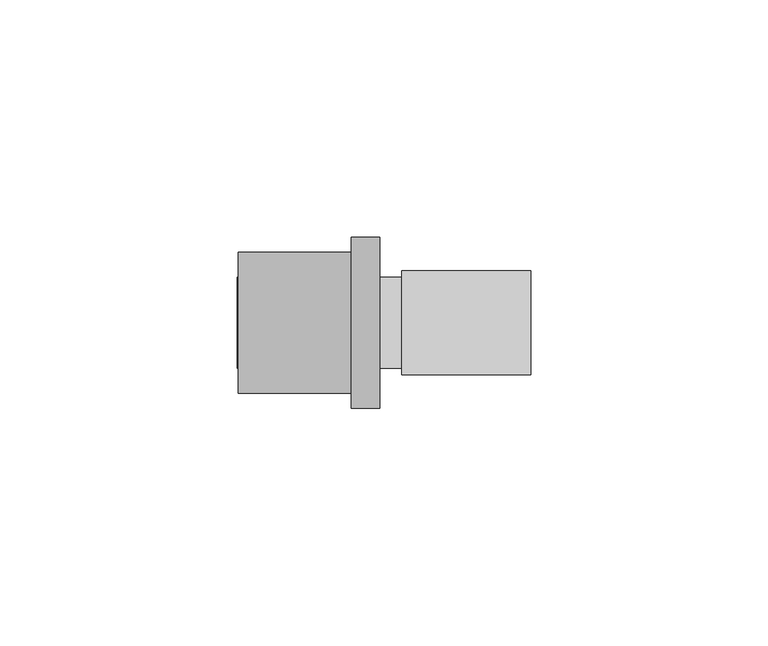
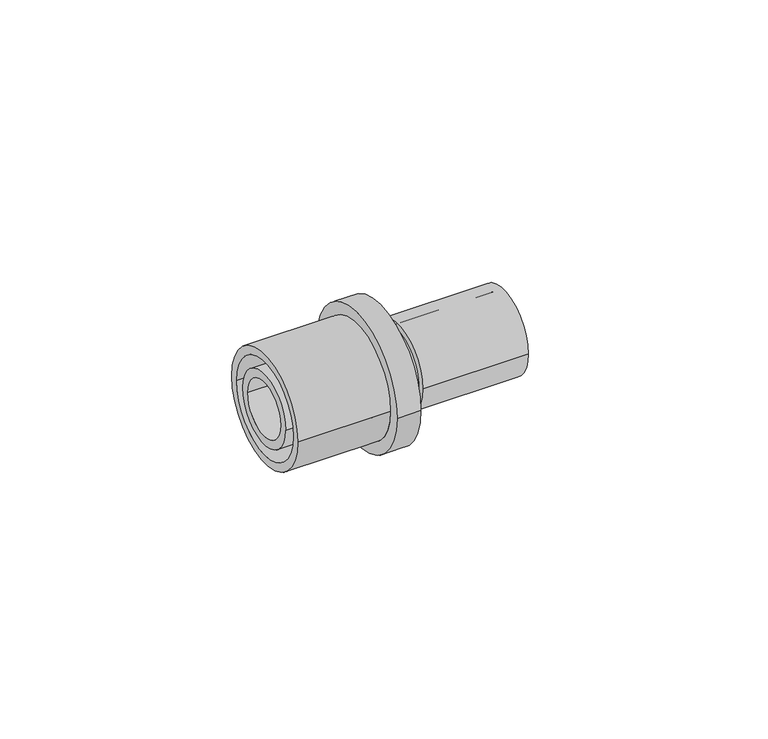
"""IFC4 building model written with IfcOpenShell, lengths in millimetres: pipe fitting geometry, FASTLOC Copper press adapter RX+ : FSL RX+ AT."""

from ifc_helpers import new_model, si_unit, point, frame, origin, origin_2d, place, context, project, spatial, polyline, circle_curve, trimmed, segment, composite_curve, outline, extrude, source, transform, mapped, element, save
from ifc_brep_helpers import plane_surface, cylinder_surface, revolved_surface, advanced_brep


def pipe_fitting_127ecf93(model_context):
    return source(origin(), model_context, "Body", "SolidModel", [
        advanced_brep(
        [(-10.6, -18.0, 0.0), (-10.6, 18.0, 0.0), (-4.6, 18.0, 0.0), (-4.6, -18.0, 0.0), (-34.4, -14.85, 0.0), (-34.4, 14.85, 0.0), (-10.6, 14.85, 0.0), (-10.6, -14.85, 0.0), (-4.6, -12.65, 0.0), (-4.6, 12.65, 0.0), (-34.4, 12.65, 0.0), (-34.4, -12.65, 0.0)],
        [
            (0, 1, circle_curve(frame((-10.6, 0.0, 0.0), z_axis=(1.0, 0.0, 0.0), x_axis=(0.0, 1.0, 0.0)), 18.0)),
            (1, 2),
            (2, 3, circle_curve(frame((-4.6, 0.0, 0.0), z_axis=(-1.0, 0.0, 0.0), x_axis=(0.0, 1.0, 0.0)), 18.0)),
            (3, 0),
            (4, 5, circle_curve(frame((-34.4, 0.0, 0.0), z_axis=(1.0, 0.0, 0.0), x_axis=(0.0, 1.0, 0.0)), 14.85)),
            (5, 6),
            (6, 7, circle_curve(frame((-10.6, 0.0, 0.0), z_axis=(-1.0, 0.0, 0.0), x_axis=(0.0, 1.0, 0.0)), 14.85)),
            (7, 4),
            (8, 9, circle_curve(frame((-4.6, 0.0, 0.0), z_axis=(1.0, 0.0, 0.0), x_axis=(0.0, 1.0, 0.0)), 12.65)),
            (9, 10),
            (10, 11, circle_curve(frame((-34.4, 0.0, 0.0), z_axis=(-1.0, 0.0, 0.0), x_axis=(0.0, 1.0, 0.0)), 12.65)),
            (11, 8),
            (1, 0, circle_curve(frame((-10.6, 0.0, 0.0), z_axis=(1.0, 0.0, 0.0), x_axis=(0.0, -1.0, 0.0)), 18.0)),
            (3, 2, circle_curve(frame((-4.6, 0.0, 0.0), z_axis=(-1.0, 0.0, 0.0), x_axis=(0.0, -1.0, 0.0)), 18.0)),
            (6, 7, circle_curve(frame((-10.6, 0.0, 0.0), z_axis=(1.0, 0.0, 0.0), x_axis=(0.0, -1.0, 0.0)), 14.85)),
            (5, 4, circle_curve(frame((-34.4, 0.0, 0.0), z_axis=(1.0, 0.0, 0.0), x_axis=(0.0, -1.0, 0.0)), 14.85)),
            (10, 11, circle_curve(frame((-34.4, 0.0, 0.0), z_axis=(1.0, 0.0, 0.0), x_axis=(0.0, -1.0, 0.0)), 12.65)),
            (9, 8, circle_curve(frame((-4.6, 0.0, 0.0), z_axis=(1.0, 0.0, 0.0), x_axis=(0.0, -1.0, 0.0)), 12.65)),
        ],
        [
            cylinder_surface(frame((-4.6, 0.0, 0.0), z_axis=(-1.0, 0.0, 0.0), x_axis=(0.0, 1.0, 0.0)), 18.0),
            cylinder_surface(frame((-4.6, 0.0, 0.0), z_axis=(-1.0, 0.0, 0.0), x_axis=(0.0, 1.0, 0.0)), 14.85),
            revolved_surface(polyline([(-34.4, 12.65, 0.0), (-4.6, 12.65, 0.0)]), (-4.6, 0.0, 0.0), (-1.0, 0.0, 0.0)),
            cylinder_surface(frame((-4.6, 0.0, 0.0), z_axis=(-1.0, 0.0, 0.0), x_axis=(0.0, -1.0, 0.0)), 18.0),
            plane_surface(frame((-10.6, 0.0, 0.0), z_axis=(-1.0, 0.0, 0.0), x_axis=(0.0, -1.0, 0.0))),
            cylinder_surface(frame((-4.6, 0.0, 0.0), z_axis=(-1.0, 0.0, 0.0), x_axis=(0.0, -1.0, 0.0)), 14.85),
            plane_surface(frame((-34.4, 0.0, 0.0), z_axis=(-1.0, 0.0, 0.0), x_axis=(0.0, -1.0, 0.0))),
            revolved_surface(polyline([(-34.4, -12.65, 0.0), (-4.6, -12.65, 0.0)]), (-4.6, 0.0, 0.0), (-1.0, 0.0, 0.0)),
            plane_surface(frame((-4.6, 0.0, 0.0), z_axis=(1.0, 0.0, 0.0), x_axis=(0.0, -1.0, 0.0))),
        ],
        [
            (0, [[1, 2, 3, 4]]),
            (1, [[5, 6, 7, 8]]),
            (2, [[9, 10, 11, 12]]),
            (3, [[13, -4, 14, -2]]),
            (4, [[-13, -1], [15, -7]]),
            (5, [[16, -8, -15, -6]]),
            (6, [[-16, -5], [17, -11]]),
            (7, [[18, -12, -17, -10]]),
            (8, [[-14, -3], [-18, -9]]),
        ],
    ),
        extrude(outline(composite_curve([segment(trimmed(circle_curve(origin_2d(), 11.0), [point((-11.0, 0.0))], [point((11.0, 0.0))], False, "CARTESIAN"), True, "CONTINUOUS"), segment(trimmed(circle_curve(origin_2d(), 11.0), [point((11.0, 0.0))], [point((-11.0, 0.0))], False, "CARTESIAN"), True, "CONTINUOUS")], self_intersect=False), holes=[composite_curve([segment(trimmed(circle_curve(origin_2d(), 8.75), [point((-8.75, 0.0))], [point((8.75, 0.0))], True, "CARTESIAN"), True, "CONTINUOUS"), segment(trimmed(circle_curve(origin_2d(), 8.75), [point((8.75, 0.0))], [point((-8.75, 0.0))], True, "CARTESIAN"), True, "CONTINUOUS")], self_intersect=False)]), frame((0.0, 0.0, 0.0), z_axis=(1.0, 0.0, 0.0), x_axis=(0.0, 1.0, 0.0)), (0.0, 0.0, 1.0), 27.2),
        advanced_brep(
        [(-10.6, 9.6, 0.0), (-10.6, -9.6, 0.0), (-34.6, -9.6, 0.0), (-34.6, 9.6, 0.0), (-7.8, 11.1, 0.0), (-7.8, -11.1, 0.0), (-10.6, -11.1, 0.0), (-10.6, 11.1, 0.0), (0.0, 9.6, 0.0), (0.0, -9.6, 0.0), (-7.8, -9.6, 0.0), (-7.8, 9.6, 0.0), (-34.6, 7.35, 0.0), (-34.6, -7.35, 0.0), (0.0, -7.35, 0.0), (0.0, 7.35, 0.0)],
        [
            (0, 1, circle_curve(frame((-10.6, 0.0, 0.0), z_axis=(-1.0, 0.0, 0.0), x_axis=(0.0, -1.0, 0.0)), 9.6)),
            (1, 2),
            (2, 3, circle_curve(frame((-34.6, 0.0, 0.0), z_axis=(1.0, 0.0, 0.0), x_axis=(0.0, -1.0, 0.0)), 9.6)),
            (3, 0),
            (4, 5, circle_curve(frame((-7.8, 0.0, 0.0), z_axis=(-1.0, 0.0, 0.0), x_axis=(0.0, -1.0, 0.0)), 11.1)),
            (5, 6),
            (6, 7, circle_curve(frame((-10.6, 0.0, 0.0), z_axis=(1.0, 0.0, 0.0), x_axis=(0.0, -1.0, 0.0)), 11.1)),
            (7, 4),
            (8, 9, circle_curve(frame((0.0, 0.0, 0.0), z_axis=(-1.0, 0.0, 0.0), x_axis=(0.0, -1.0, 0.0)), 9.6)),
            (9, 10),
            (10, 11, circle_curve(frame((-7.8, 0.0, 0.0), z_axis=(1.0, 0.0, 0.0), x_axis=(0.0, -1.0, 0.0)), 9.6)),
            (11, 8),
            (12, 13, circle_curve(frame((-34.6, 0.0, 0.0), z_axis=(-1.0, 0.0, 0.0), x_axis=(0.0, -1.0, 0.0)), 7.35)),
            (13, 14),
            (14, 15, circle_curve(frame((0.0, 0.0, 0.0), z_axis=(1.0, 0.0, 0.0), x_axis=(0.0, -1.0, 0.0)), 7.35)),
            (15, 12),
            (2, 3, circle_curve(frame((-34.6, 0.0, 0.0), z_axis=(-1.0, 0.0, 0.0), x_axis=(0.0, 1.0, 0.0)), 9.6)),
            (12, 13, circle_curve(frame((-34.6, 0.0, 0.0), z_axis=(1.0, 0.0, 0.0), x_axis=(0.0, 1.0, 0.0)), 7.35)),
            (1, 0, circle_curve(frame((-10.6, 0.0, 0.0), z_axis=(-1.0, 0.0, 0.0), x_axis=(0.0, 1.0, 0.0)), 9.6)),
            (6, 7, circle_curve(frame((-10.6, 0.0, 0.0), z_axis=(-1.0, 0.0, 0.0), x_axis=(0.0, 1.0, 0.0)), 11.1)),
            (5, 4, circle_curve(frame((-7.8, 0.0, 0.0), z_axis=(-1.0, 0.0, 0.0), x_axis=(0.0, 1.0, 0.0)), 11.1)),
            (10, 11, circle_curve(frame((-7.8, 0.0, 0.0), z_axis=(-1.0, 0.0, 0.0), x_axis=(0.0, 1.0, 0.0)), 9.6)),
            (9, 8, circle_curve(frame((0.0, 0.0, 0.0), z_axis=(-1.0, 0.0, 0.0), x_axis=(0.0, 1.0, 0.0)), 9.6)),
            (14, 15, circle_curve(frame((0.0, 0.0, 0.0), z_axis=(-1.0, 0.0, 0.0), x_axis=(0.0, 1.0, 0.0)), 7.35)),
        ],
        [
            cylinder_surface(frame((0.0, 0.0, 0.0), z_axis=(1.0, 0.0, 0.0), x_axis=(0.0, -1.0, 0.0)), 9.6),
            cylinder_surface(frame((0.0, 0.0, 0.0), z_axis=(1.0, 0.0, 0.0), x_axis=(0.0, -1.0, 0.0)), 11.1),
            revolved_surface(polyline([(0.0, -7.35, 0.0), (-34.6, -7.35, 0.0)]), (0.0, 0.0, 0.0), (1.0, 0.0, 0.0)),
            plane_surface(frame((-34.6, 0.0, 0.0), z_axis=(-1.0, 0.0, 0.0), x_axis=(0.0, 1.0, 0.0))),
            cylinder_surface(frame((0.0, 0.0, 0.0), z_axis=(1.0, 0.0, 0.0), x_axis=(0.0, 1.0, 0.0)), 9.6),
            plane_surface(frame((-10.6, 0.0, 0.0), z_axis=(-1.0, 0.0, 0.0), x_axis=(0.0, 1.0, 0.0))),
            cylinder_surface(frame((0.0, 0.0, 0.0), z_axis=(1.0, 0.0, 0.0), x_axis=(0.0, 1.0, 0.0)), 11.1),
            plane_surface(frame((-7.8, 0.0, 0.0), z_axis=(1.0, 0.0, 0.0), x_axis=(0.0, 1.0, 0.0))),
            plane_surface(frame((0.0, 0.0, 0.0), z_axis=(1.0, 0.0, 0.0), x_axis=(0.0, 1.0, 0.0))),
            revolved_surface(polyline([(0.0, 7.35, 0.0), (-34.6, 7.35, 0.0)]), (0.0, 0.0, 0.0), (1.0, 0.0, 0.0)),
        ],
        [
            (0, [[1, 2, 3, 4]]),
            (1, [[5, 6, 7, 8]]),
            (0, [[9, 10, 11, 12]]),
            (2, [[13, 14, 15, 16]]),
            (3, [[17, -3], [18, -13]]),
            (4, [[19, -4, -17, -2]]),
            (5, [[20, -7], [-19, -1]]),
            (6, [[21, -8, -20, -6]]),
            (7, [[-21, -5], [22, -11]]),
            (4, [[23, -12, -22, -10]]),
            (8, [[-23, -9], [24, -15]]),
            (9, [[-18, -16, -24, -14]]),
        ],
    ),
    ])


if __name__ == "__main__":
    model = new_model("IFC4")
    model_context = context("Model", 3, world=origin())
    ifc_project = project(units=[si_unit("LENGTHUNIT", "METRE", prefix="MILLI")], contexts=[model_context])
    site = spatial("IfcSite", under=ifc_project)
    building = spatial("IfcBuilding", under=site)
    placement = place(None, origin())
    pipe_fitting_shape = pipe_fitting_127ecf93(model_context)
    element("IfcPipeFitting", 1, ObjectType="FASTLOC Copper press adapter RX+ : FSL RX+ AT", at=placement, inside=building, context=model_context, shape_type="MappedRepresentation", body=[
        mapped(pipe_fitting_shape, transform((0.0, 0.0, 0.0), x_axis=(1.0, 0.0, 0.0), y_axis=(0.0, 1.0, 0.0), z_axis=(0.0, 0.0, 1.0))),
    ])
    save(model, "model.ifc")
